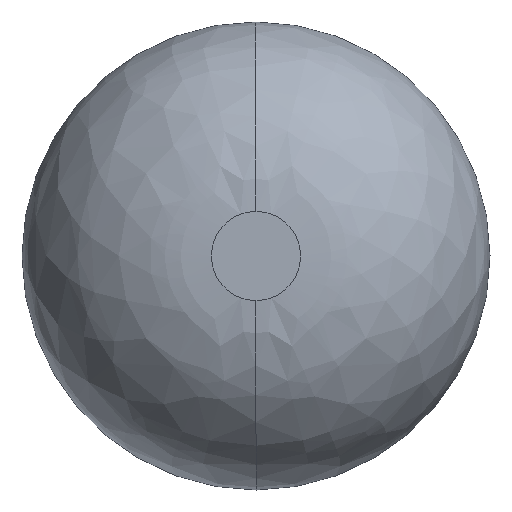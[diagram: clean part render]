
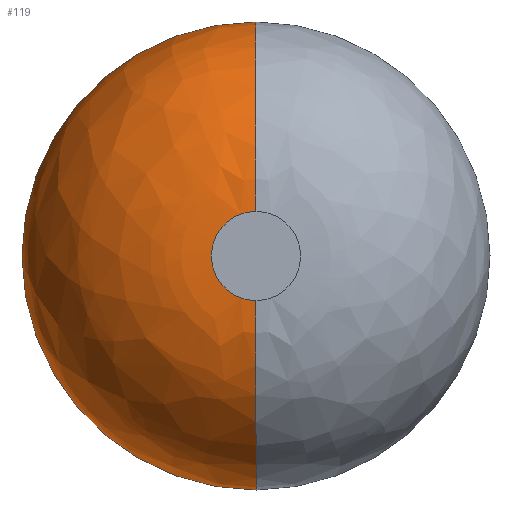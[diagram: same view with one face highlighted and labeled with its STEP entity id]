
A CAD part, left-side view. The second image highlights one B-rep face of the part: STEP entity #119.
In plain terms, the highlighted free-form (B-spline) face has degree [3, 3] with [4, 4] control points.
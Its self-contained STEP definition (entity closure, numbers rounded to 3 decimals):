
#109=(
BOUNDED_SURFACE()
B_SPLINE_SURFACE(3,3,((#446,#447,#448,#449),(#450,#451,#452,#453),(#454,
#455,#456,#457),(#458,#459,#460,#461)),.UNSPECIFIED.,.F.,.F.,.F.)
B_SPLINE_SURFACE_WITH_KNOTS((4,4),(4,4),(0.,1.),(0.,1.),.UNSPECIFIED.)
GEOMETRIC_REPRESENTATION_ITEM()
RATIONAL_B_SPLINE_SURFACE(((1.,0.333,0.333,1.),
(0.805,0.268,0.268,0.805),
(0.805,0.268,0.268,0.805),
(1.,0.333,0.333,1.)))
REPRESENTATION_ITEM('')
SURFACE()
);
#119=ADVANCED_FACE('',(#140),#109,.T.);
#140=FACE_OUTER_BOUND('',#154,.T.);
#154=EDGE_LOOP('',(#202,#203,#204,#205));
#202=ORIENTED_EDGE('',*,*,#271,.T.);
#203=ORIENTED_EDGE('',*,*,#272,.F.);
#204=ORIENTED_EDGE('',*,*,#273,.F.);
#205=ORIENTED_EDGE('',*,*,#274,.T.);
#252=VERTEX_POINT('',#439);
#253=VERTEX_POINT('',#440);
#254=VERTEX_POINT('',#442);
#255=VERTEX_POINT('',#444);
#271=EDGE_CURVE('',#252,#253,#291,.T.);
#272=EDGE_CURVE('',#254,#253,#292,.T.);
#273=EDGE_CURVE('',#255,#254,#293,.T.);
#274=EDGE_CURVE('',#255,#252,#294,.T.);
#291=CIRCLE('',#314,2.);
#292=CIRCLE('',#315,8.5);
#293=CIRCLE('',#316,10.5);
#294=CIRCLE('',#317,8.5);
#314=AXIS2_PLACEMENT_3D('',#438,#364,#365);
#315=AXIS2_PLACEMENT_3D('',#441,#366,#367);
#316=AXIS2_PLACEMENT_3D('',#443,#368,#369);
#317=AXIS2_PLACEMENT_3D('',#445,#370,#371);
#364=DIRECTION('',(1.,0.,0.));
#365=DIRECTION('',(0.,0.,-1.));
#366=DIRECTION('',(0.,-1.,0.));
#367=DIRECTION('',(0.,0.,1.));
#368=DIRECTION('',(1.,0.,0.));
#369=DIRECTION('',(0.,0.,-1.));
#370=DIRECTION('',(0.,1.,0.));
#371=DIRECTION('',(0.,0.,-1.));
#438=CARTESIAN_POINT('',(-13.5,0.,0.));
#439=CARTESIAN_POINT('',(-13.5,0.,-2.));
#440=CARTESIAN_POINT('',(-13.5,0.,2.));
#441=CARTESIAN_POINT('',(-5.,0.,2.));
#442=CARTESIAN_POINT('',(-5.,0.,10.5));
#443=CARTESIAN_POINT('',(-5.,0.,0.));
#444=CARTESIAN_POINT('',(-5.,0.,-10.5));
#445=CARTESIAN_POINT('',(-5.,0.,-2.));
#446=CARTESIAN_POINT('',(-5.,0.,-10.5));
#447=CARTESIAN_POINT('',(-5.,21.,-10.5));
#448=CARTESIAN_POINT('',(-5.,21.,10.5));
#449=CARTESIAN_POINT('',(-5.,0.,10.5));
#450=CARTESIAN_POINT('',(-9.979,0.,-10.5));
#451=CARTESIAN_POINT('',(-9.979,21.,-10.5));
#452=CARTESIAN_POINT('',(-9.979,21.,10.5));
#453=CARTESIAN_POINT('',(-9.979,0.,10.5));
#454=CARTESIAN_POINT('',(-13.5,0.,-6.979));
#455=CARTESIAN_POINT('',(-13.5,13.958,-6.979));
#456=CARTESIAN_POINT('',(-13.5,13.958,6.979));
#457=CARTESIAN_POINT('',(-13.5,0.,6.979));
#458=CARTESIAN_POINT('',(-13.5,0.,-2.));
#459=CARTESIAN_POINT('',(-13.5,4.,-2.));
#460=CARTESIAN_POINT('',(-13.5,4.,2.));
#461=CARTESIAN_POINT('',(-13.5,0.,2.));
